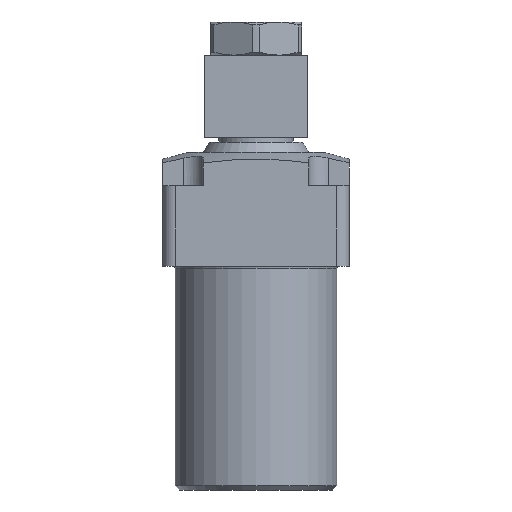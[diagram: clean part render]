
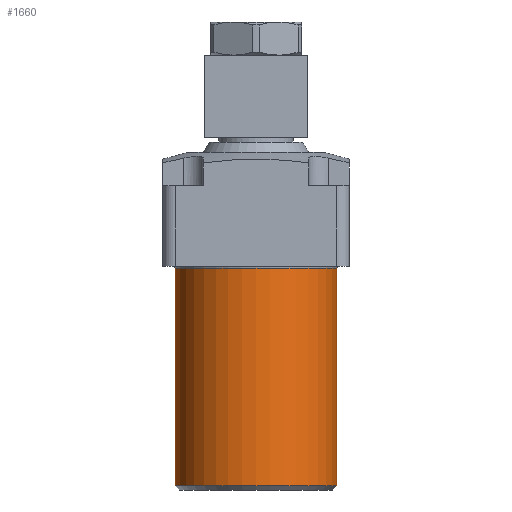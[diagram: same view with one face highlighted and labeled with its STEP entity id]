
A CAD part, left-side view. The second image highlights one B-rep face of the part: STEP entity #1660.
In plain terms, the highlighted cylindrical face has radius 19.5 mm (diameter 39 mm), a full revolution.
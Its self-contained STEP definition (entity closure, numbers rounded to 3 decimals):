
#1581=CYLINDRICAL_SURFACE('',#3867,19.5);
#1660=ADVANCED_FACE('',(#1915,#1916),#1581,.T.);
#1915=FACE_BOUND('',#2080,.T.);
#1916=FACE_BOUND('',#2081,.T.);
#2080=EDGE_LOOP('',(#2402));
#2081=EDGE_LOOP('',(#2403));
#2402=ORIENTED_EDGE('',*,*,#3251,.T.);
#2403=ORIENTED_EDGE('',*,*,#3252,.T.);
#3000=VERTEX_POINT('',#5170);
#3001=VERTEX_POINT('',#5172);
#3251=EDGE_CURVE('',#3000,#3000,#3526,.T.);
#3252=EDGE_CURVE('',#3001,#3001,#3527,.T.);
#3526=CIRCLE('',#3865,19.5);
#3527=CIRCLE('',#3866,19.5);
#3865=AXIS2_PLACEMENT_3D('',#5169,#4253,#4254);
#3866=AXIS2_PLACEMENT_3D('',#5171,#4255,#4256);
#3867=AXIS2_PLACEMENT_3D('',#5173,#4257,#4258);
#4253=DIRECTION('',(0.,0.,-1.));
#4254=DIRECTION('',(0.,-1.,0.));
#4255=DIRECTION('',(0.,0.,1.));
#4256=DIRECTION('',(0.,-1.,0.));
#4257=DIRECTION('',(0.,0.,-1.));
#4258=DIRECTION('',(0.,1.,0.));
#5169=CARTESIAN_POINT('',(0.,42.,11.6));
#5170=CARTESIAN_POINT('',(0.,22.5,11.6));
#5171=CARTESIAN_POINT('',(0.,42.,-41.));
#5172=CARTESIAN_POINT('',(0.,22.5,-41.));
#5173=CARTESIAN_POINT('',(0.,42.,12.));
